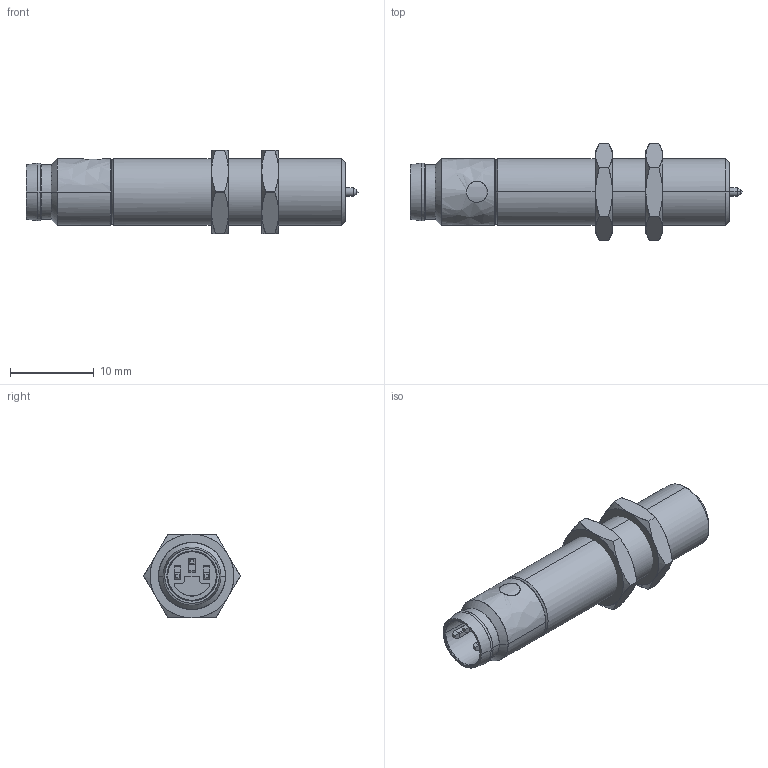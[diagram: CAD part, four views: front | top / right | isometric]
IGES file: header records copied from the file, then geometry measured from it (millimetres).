
Start section: Comment
Global section: file name: MY COM_F_S35L.igs; native system:  By Spatial Corp.; preprocessor: XPlus GENERIC/IGES 3.0; author: Author; organization: Title; date: 20070405.095917; units: millimetre
Bounding box: 39.7 x 11.55 x 10 mm (x, y, z)
Surface area: 1607.7 mm2 (no closed solid volume)
Topology: 0 solids, 0 shells, 152 faces, 740 edges, 740 vertices
Faces by surface type: bspline 152
